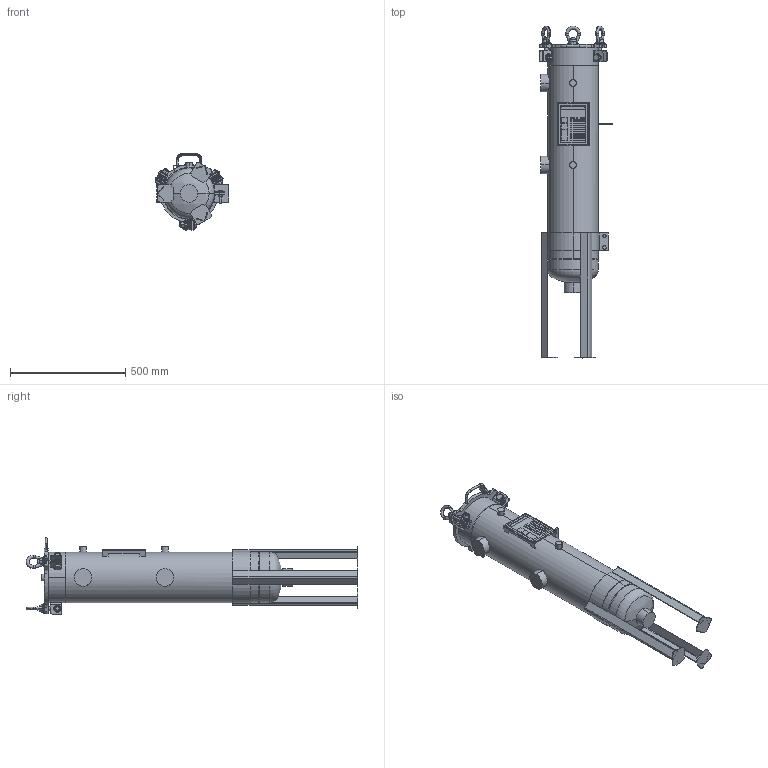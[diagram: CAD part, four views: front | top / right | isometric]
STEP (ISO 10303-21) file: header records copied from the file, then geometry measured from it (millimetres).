
FILE_DESCRIPTION (( 'STEP AP203' ), '1' );
FILE_NAME ('002002-18546.step', '2025-12-09T14:43:44', ( '' ), ( '' ), 'SwSTEP 2.0', 'SolidWorks 2023', '' );
FILE_SCHEMA (( 'CONFIG_CONTROL_DESIGN' ));
Length unit declared in the file: inch
Products named in the file (1): 002002-18546
Bounding box: 320.61 x 1441.74 x 332.85 mm (x, y, z)
Volume: 10720261.4 mm3; surface area: 2062316.4 mm2
Topology: 12 solids, 12 shells, 791 faces, 1896 edges, 1176 vertices
Faces by surface type: plane 311, cylinder 237, cone 137, torus 53, bspline 51, sphere 2
Entity records: 26949 total; most frequent: CARTESIAN_POINT 8777, DIRECTION 3808, ORIENTED_EDGE 3768, EDGE_CURVE 1884, AXIS2_PLACEMENT_3D 1507, VERTEX_POINT 1176, EDGE_LOOP 870, VECTOR 794
